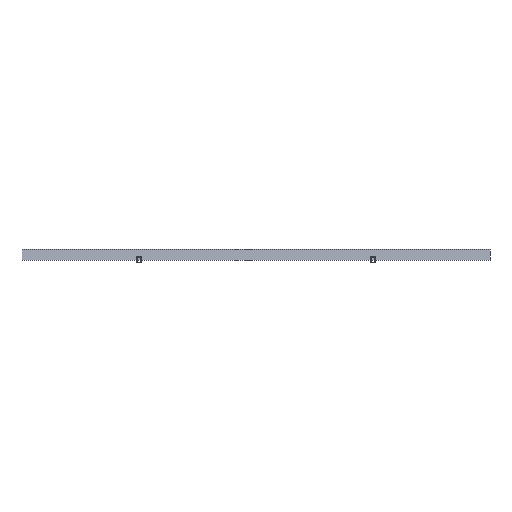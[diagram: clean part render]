
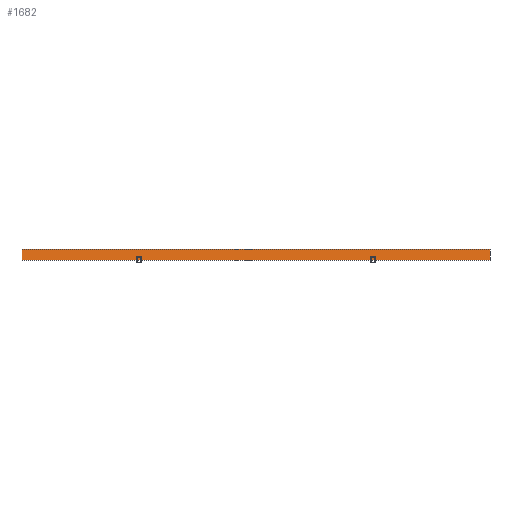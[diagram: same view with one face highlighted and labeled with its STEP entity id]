
A CAD part, left-side view. The second image highlights one B-rep face of the part: STEP entity #1682.
In plain terms, the highlighted planar face has unit normal (-0.99, 0, 0.139).
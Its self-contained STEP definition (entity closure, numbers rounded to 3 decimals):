
#949 = ORIENTED_EDGE ( 'NONE', *, *, #3366, .T. ) ;
#1682 = ADVANCED_FACE ( 'NONE', ( #5136 ), #39883, .T. ) ;
#2130 = LINE ( 'NONE', #17372, #4091 ) ;
#3366 = EDGE_CURVE ( 'NONE', #22786, #49417, #15058, .T. ) ;
#4091 = VECTOR ( 'NONE', #13623, 1000. ) ;
#4567 = DIRECTION ( 'NONE',  ( 0., -1., 0. ) ) ;
#5136 = FACE_OUTER_BOUND ( 'NONE', #7335, .T. ) ;
#5387 = CARTESIAN_POINT ( 'NONE',  ( -280.772, 1200., 64.685 ) ) ;
#6526 = VECTOR ( 'NONE', #27100, 1000. ) ;
#6800 = CARTESIAN_POINT ( 'NONE',  ( -280.772, 1200., 64.685 ) ) ;
#7335 = EDGE_LOOP ( 'NONE', ( #30705, #15619, #949, #14564 ) ) ;
#7799 = CARTESIAN_POINT ( 'NONE',  ( -280.5, -1200., 66.617 ) ) ;
#8079 = CARTESIAN_POINT ( 'NONE',  ( -280.772, -1200., 64.685 ) ) ;
#10117 = DIRECTION ( 'NONE',  ( -0.99, 0., 0.139 ) ) ;
#10227 = CARTESIAN_POINT ( 'NONE',  ( -288.155, -1200., 12.153 ) ) ;
#11831 = CARTESIAN_POINT ( 'NONE',  ( -288.155, 1200., 12.153 ) ) ;
#13623 = DIRECTION ( 'NONE',  ( 0., -1., 0. ) ) ;
#14564 = ORIENTED_EDGE ( 'NONE', *, *, #34648, .T. ) ;
#15058 = LINE ( 'NONE', #6800, #20525 ) ;
#15619 = ORIENTED_EDGE ( 'NONE', *, *, #36005, .F. ) ;
#16650 = DIRECTION ( 'NONE',  ( 0.139, 0., 0.99 ) ) ;
#17372 = CARTESIAN_POINT ( 'NONE',  ( -280.5, 1200., 66.617 ) ) ;
#19345 = LINE ( 'NONE', #11831, #43222 ) ;
#20525 = VECTOR ( 'NONE', #26573, 1000. ) ;
#22460 = EDGE_CURVE ( 'NONE', #26053, #34063, #35094, .T. ) ;
#22786 = VERTEX_POINT ( 'NONE', #41744 ) ;
#24496 = CARTESIAN_POINT ( 'NONE',  ( -288.155, 1200., 12.153 ) ) ;
#26053 = VERTEX_POINT ( 'NONE', #7799 ) ;
#26573 = DIRECTION ( 'NONE',  ( -0.139, 0., -0.99 ) ) ;
#27100 = DIRECTION ( 'NONE',  ( -0.139, 0., -0.99 ) ) ;
#30705 = ORIENTED_EDGE ( 'NONE', *, *, #22460, .F. ) ;
#34063 = VERTEX_POINT ( 'NONE', #10227 ) ;
#34648 = EDGE_CURVE ( 'NONE', #49417, #34063, #19345, .T. ) ;
#35094 = LINE ( 'NONE', #8079, #6526 ) ;
#36005 = EDGE_CURVE ( 'NONE', #22786, #26053, #2130, .T. ) ;
#38815 = AXIS2_PLACEMENT_3D ( 'NONE', #5387, #10117, #16650 ) ;
#39883 = PLANE ( 'NONE',  #38815 ) ;
#41744 = CARTESIAN_POINT ( 'NONE',  ( -280.5, 1200., 66.617 ) ) ;
#43222 = VECTOR ( 'NONE', #4567, 1000. ) ;
#49417 = VERTEX_POINT ( 'NONE', #24496 ) ;
